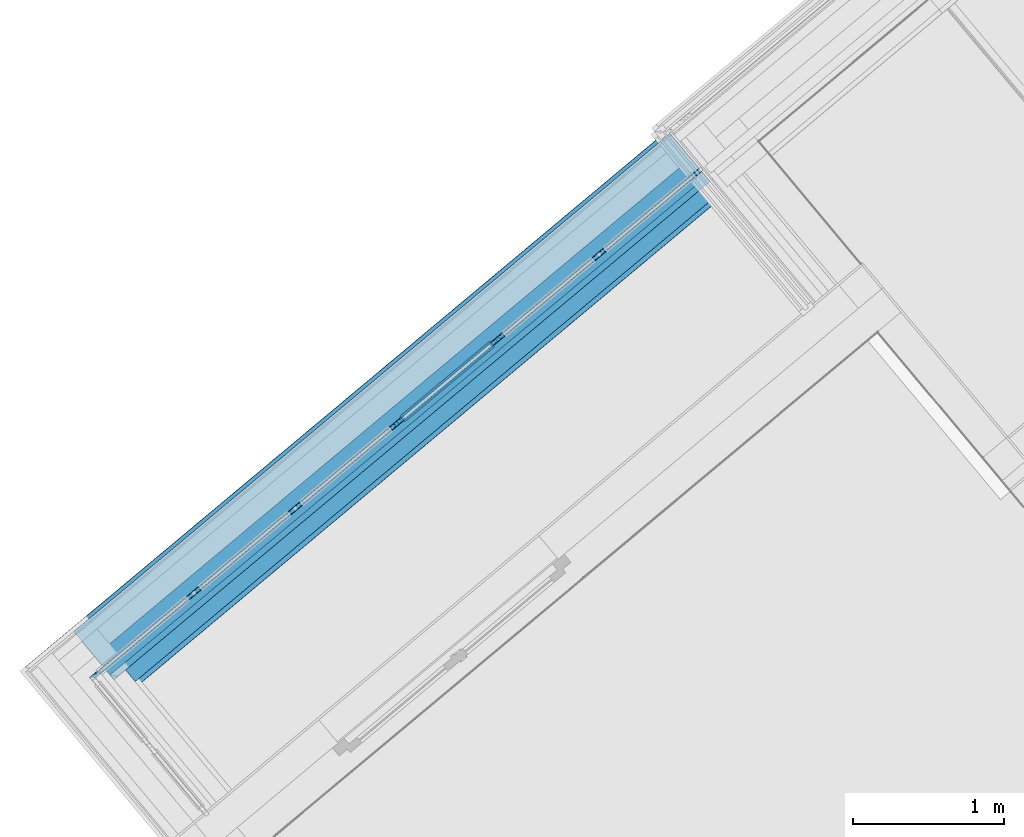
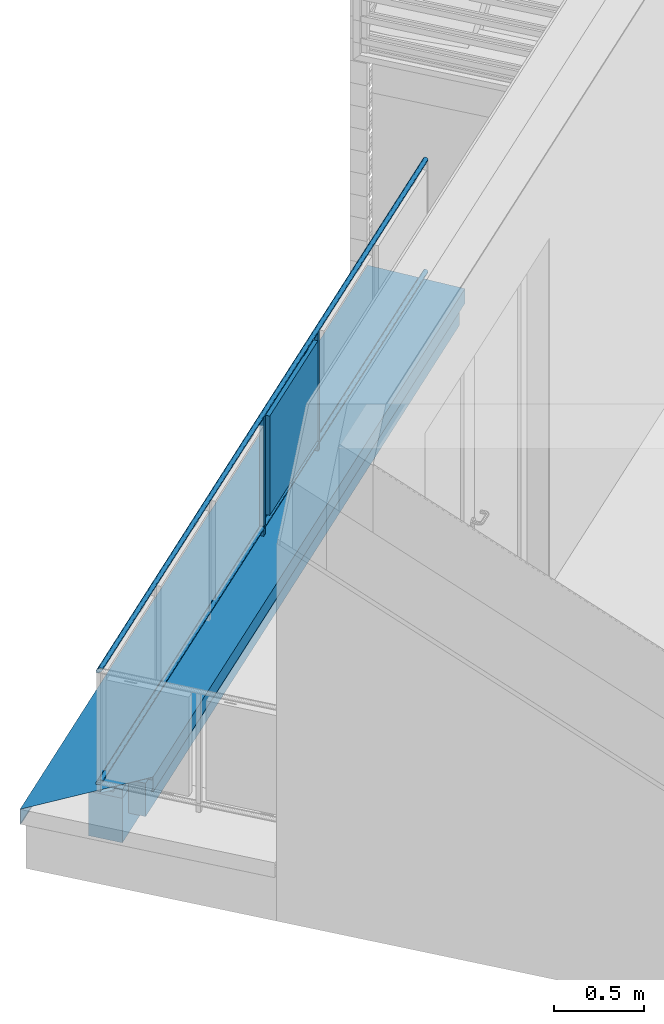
# One storey, part 19 of 50: 11 building element parts, 2 elements without a shape of their own.
"""IFC4 building model written with IfcOpenShell, lengths in metres."""

from ifc_helpers import new_model, entity, si_unit, converted_unit, derived_unit, direction, frame, origin_with_axes, place, context, subcontext, project, spatial, polygons, material, type_object, element, aggregate, save


model = new_model("IFC4")

# Units and contexts
model_context = context("Model", 3, precision=1e-05, world=origin_with_axes(), true_north=direction((0.0, 1.0)))
body_context = subcontext(model_context, "Body", "Model", "MODEL_VIEW")
ifc_project = project(units=[si_unit("LENGTHUNIT", "METRE"), si_unit("AREAUNIT", "SQUARE_METRE"), si_unit("VOLUMEUNIT", "CUBIC_METRE"), converted_unit("PLANEANGLEUNIT", "DEGREE", entity("IfcPlaneAngleMeasure", 0.0174532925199), si_unit("PLANEANGLEUNIT", "RADIAN"), dimensions=[0, 0, 0, 0, 0, 0, 0]), converted_unit("TIMEUNIT", "Year", entity("IfcTimeMeasure", 31556926.0), si_unit("TIMEUNIT", "SECOND"), dimensions=[0, 0, 1, 0, 0, 0, 0]), si_unit("MASSUNIT", "GRAM", prefix="KILO"), si_unit("THERMODYNAMICTEMPERATUREUNIT", "DEGREE_CELSIUS"), si_unit("LUMINOUSINTENSITYUNIT", "LUMEN"), si_unit("ENERGYUNIT", "JOULE", prefix="MEGA"), derived_unit("THERMALCONDUCTANCEUNIT", [(si_unit("POWERUNIT", "WATT"), 1), (si_unit("LENGTHUNIT", "METRE"), -1), (si_unit("THERMODYNAMICTEMPERATUREUNIT", "KELVIN"), -1)]), derived_unit("SPECIFICHEATCAPACITYUNIT", [(si_unit("ENERGYUNIT", "JOULE"), 1), (si_unit("MASSUNIT", "GRAM", prefix="KILO"), -1), (si_unit("THERMODYNAMICTEMPERATUREUNIT", "KELVIN"), -1)]), derived_unit("MASSDENSITYUNIT", [(si_unit("MASSUNIT", "GRAM", prefix="KILO"), 1), (si_unit("VOLUMEUNIT", "CUBIC_METRE"), -1)])], contexts=[model_context])

# Site, building, storey
site_placement = place(None, frame((-0.00153261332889, -0.00661245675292, 0.0), z_axis=(0.0, 0.0, 1.0), x_axis=(1.0, 0.0, 0.0)))
site = spatial("IfcSite", under=ifc_project, at=site_placement, Name="Gelände", CompositionType="ELEMENT")
building_placement = place(site_placement, origin_with_axes())
building = spatial("IfcBuilding", under=site, at=building_placement, Name="Gebäude", CompositionType="ELEMENT")
storey_placement = place(building_placement, frame((0.0, 0.0, 8.66), z_axis=(0.0, 0.0, 1.0), x_axis=(1.0, 0.0, 0.0)))
storey = spatial("IfcBuildingStorey", under=building, at=storey_placement, Name="DG2", CompositionType="ELEMENT", Elevation=8.66)

# Wall, building element parts
wall_type = type_object("IfcWallType", Name="Bauteil - Attika Terrasse 1.DG 574 x 410", PredefinedType="NOTDEFINED")
wall_placement = place(storey_placement, frame((-8.38023068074, 18.991205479, -0.2), z_axis=(0.0, 0.0, 1.0), x_axis=(0.767365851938, 0.641209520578, 0.0)))
wall = element("IfcWall", 1, at=wall_placement, inside=storey, type_object=wall_type, Name="Wand-005", PredefinedType="NOTDEFINED")
ifc_material_1 = material(Name="Brettschichtholz")
building_element_part_1_placement = place(wall_placement, origin_with_axes())
building_element_part_1 = element("IfcBuildingElementPart", 2, at=building_element_part_1_placement, material=ifc_material_1, Name="Brettschichtholz", PredefinedType="NOTDEFINED", context=body_context, shape_type="Tessellation", body=[
    polygons([(0.200000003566, -0.159999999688, 0.559999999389), (0.200000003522, -0.200000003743, 0.559999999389), (5.34520574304, -0.200000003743, 0.559999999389), (5.34520574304, -0.159999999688, 0.559999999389), (0.200000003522, -0.200000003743, 0.519224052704), (0.200000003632, -0.100000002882, 0.559999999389), (0.200000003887, 0.130124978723, 0.559999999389), (0.200000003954, 0.190124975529, 0.559999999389), (0.200000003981, 0.214999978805, 0.559999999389), (0.200000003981, 0.214999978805, 0.519224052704), (0.200000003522, -0.200000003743, 0.511361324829), (0.200000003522, -0.200000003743, 0.50905023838), (0.200000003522, -0.200000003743, 0.500000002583), (5.34520574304, -0.200000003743, 0.500000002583), (5.34520574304, 0.214999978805, 0.499999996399), (5.34520574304, 0.214999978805, 0.559999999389), (5.34520574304, 0.190124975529, 0.559999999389), (5.34520574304, 0.130124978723, 0.559999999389), (5.34520574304, -0.100000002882, 0.559999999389), (0.200000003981, 0.214999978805, 0.500000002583), (0.200000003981, 0.214999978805, 0.50905023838), (0.200000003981, 0.214999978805, 0.511361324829)], [[[1, 2, 3, 4]], [[5, 2, 1, 6, 7, 8, 9, 10]], [[2, 5, 11, 12, 13, 14, 3]], [[14, 15, 16, 17, 18, 19, 4, 3]], [[6, 1, 4, 19]], [[7, 6, 19, 18]], [[8, 7, 18, 17]], [[9, 8, 17, 16]], [[10, 9, 16, 15, 20, 21, 22]], [[5, 10, 22, 11]], [[11, 22, 21, 12]], [[12, 21, 20, 13]], [[13, 20, 15, 14]]], closed=True),
])
ifc_material_2 = material(Name="Stahlbeton")
building_element_part_2_placement = place(wall_placement, origin_with_axes())
building_element_part_2 = element("IfcBuildingElementPart", 3, at=building_element_part_2_placement, material=ifc_material_2, Name="Stahlbeton", PredefinedType="NOTDEFINED", context=body_context, shape_type="Tessellation", body=[
    polygons([(0.199999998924, -1.8283543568e-09, 0.500000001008), (0.199999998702, -0.199999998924, 0.500000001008), (5.34520574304, -0.199999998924, 0.500000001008), (5.34520574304, -1.8283543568e-09, 0.500000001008), (0.199999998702, -0.199999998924, 0.498822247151), (0.199999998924, -1.8283543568e-09, 0.498822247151), (0.199999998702, -0.199999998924, 0.49100648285), (0.199999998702, -0.199999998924, 0.488695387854), (0.199999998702, -0.199999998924, 0.335), (5.34520574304, -0.199999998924, 0.335000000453), (5.34520574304, -0.199999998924, 0.2), (5.34520574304, -1.8283543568e-09, 0.2), (0.199999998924, -1.8283543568e-09, 0.2), (0.199999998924, -1.8283543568e-09, 0.335), (0.199999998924, -1.8283543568e-09, 0.488695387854), (0.199999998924, -1.8283543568e-09, 0.49100648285), (0.199999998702, -0.199999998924, 0.2)], [[[1, 2, 3, 4]], [[5, 2, 1, 6]], [[2, 5, 7, 8, 9, 10, 3]], [[11, 12, 4, 3, 10]], [[6, 1, 4, 12, 13, 14, 15, 16]], [[5, 6, 16, 7]], [[7, 16, 15, 8]], [[8, 15, 14, 9]], [[9, 17, 11, 10]], [[17, 13, 12, 11]], [[9, 14, 13, 17]]], closed=True),
])
ifc_material_3 = material(Name="Vollholz")
building_element_part_3_placement = place(wall_placement, origin_with_axes())
building_element_part_3 = element("IfcBuildingElementPart", 4, at=building_element_part_3_placement, material=ifc_material_3, Name="Vollholz", PredefinedType="NOTDEFINED", context=body_context, shape_type="Tessellation", body=[
    polygons([(0.0999999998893, -0.1, 0.575979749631), (0.16011022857, -0.160110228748, 0.573880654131), (5.34520574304, -0.160110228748, 0.573880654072), (5.34520574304, -0.1, 0.575979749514), (0.160110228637, -0.1, 0.573880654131), (0.160063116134, -0.160063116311, 0.567947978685), (0.159999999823, -0.16, 0.560000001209), (5.34520574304, -0.16, 0.560000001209), (5.34520574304, -0.1, 0.560000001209), (0.159999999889, -0.1, 0.560000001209), (0.1600631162, -0.1, 0.567947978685)], [[[1, 2, 3, 4]], [[5, 2, 1]], [[2, 6, 7, 8, 3]], [[3, 8, 9, 4]], [[5, 1, 4, 9, 10, 11]], [[2, 5, 11, 6]], [[6, 11, 10, 7]], [[7, 10, 9, 8]]], closed=True),
])
ifc_material_4 = material(Name="EPS 1")
building_element_part_4_placement = place(wall_placement, origin_with_axes())
building_element_part_4 = element("IfcBuildingElementPart", 5, at=building_element_part_4_placement, material=ifc_material_4, Name="EPS 1", PredefinedType="NOTDEFINED", context=body_context, shape_type="Tessellation", body=[
    polygons([(0.299999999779, -0.2, 0.560000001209), (0.299999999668, -0.3, 0.560000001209), (5.34520574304, -0.3, 0.560000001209), (5.34520574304, -0.2, 0.560000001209), (0.299999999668, -0.3, 0.519224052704), (0.299999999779, -0.2, 0.519224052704), (0.299999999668, -0.3, 0.511361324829), (0.299999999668, -0.3, 0.50905023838), (0.299999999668, -0.3, 0.499999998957), (0.299999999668, -0.3, 0.498822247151), (0.299999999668, -0.3, 0.49100648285), (0.299999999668, -0.3, 0.488695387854), (0.299999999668, -0.3, 0.335), (5.34520574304, -0.3, 0.335), (5.34520574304, -0.2, 0.335), (0.299999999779, -0.2, 0.335), (0.299999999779, -0.2, 0.488695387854), (0.299999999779, -0.2, 0.49100648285), (0.299999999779, -0.2, 0.498822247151), (0.299999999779, -0.2, 0.499999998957), (0.299999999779, -0.2, 0.50905023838), (0.299999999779, -0.2, 0.511361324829)], [[[1, 2, 3, 4]], [[5, 2, 1, 6]], [[2, 5, 7, 8, 9, 10, 11, 12, 13, 14, 3]], [[14, 15, 4, 3]], [[6, 1, 4, 15, 16, 17, 18, 19, 20, 21, 22]], [[5, 6, 22, 7]], [[7, 22, 21, 8]], [[8, 21, 20, 9]], [[9, 20, 19, 10]], [[10, 19, 18, 11]], [[11, 18, 17, 12]], [[12, 17, 16, 13]], [[13, 16, 15, 14]]], closed=True),
])
ifc_material_5 = material(Name="Holzwerkstoff")
building_element_part_5_placement = place(wall_placement, origin_with_axes())
building_element_part_5 = element("IfcBuildingElementPart", 6, at=building_element_part_5_placement, material=ifc_material_5, Name="Holzwerkstoff", PredefinedType="NOTDEFINED", context=body_context, shape_type="Tessellation", body=[
    polygons([(-0.239276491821, 0.239276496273, 0.608570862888), (0.330698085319, -0.330698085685, 0.587938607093), (5.34520574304, -0.330698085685, 0.587938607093), (5.34520574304, 0.239276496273, 0.608570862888), (0.330698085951, 0.2399969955, 0.587938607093), (0.330561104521, -0.330561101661, 0.584015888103), (0.330280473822, -0.330280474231, 0.57597974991), (0.330207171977, -0.330207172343, 0.573880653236), (0.329999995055, -0.329999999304, 0.567947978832), (5.34520574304, -0.329999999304, 0.567947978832), (0.330634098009, -0.330634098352, 0.586106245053), (5.34520574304, -0.100000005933, 0.575979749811), (5.34520574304, 0.130124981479, 0.584015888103), (5.34520574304, 0.189984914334, 0.586106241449), (5.34520574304, 0.239999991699, 0.587852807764), (5.34520574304, -0.160110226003, 0.573880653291), (0.330695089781, 0.239999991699, 0.587852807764), (0.33063409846, 0.189984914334, 0.586106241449), (0.330280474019, -0.100000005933, 0.575979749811), (0.330561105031, 0.130124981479, 0.584015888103), (0.330207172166, -0.160110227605, 0.573880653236)], [[[1, 2, 3, 4]], [[1, 5, 2]], [[6, 7, 8, 9, 10, 3, 2, 11]], [[12, 13, 14, 15, 4, 3, 10, 16]], [[17, 5, 1, 4, 15]], [[18, 11, 2, 5, 17]], [[19, 7, 6, 20]], [[21, 8, 7, 19]], [[21, 9, 8]], [[9, 21, 16, 10]], [[20, 6, 11, 18]], [[19, 20, 13, 12]], [[20, 18, 14, 13]], [[18, 17, 15, 14]], [[21, 19, 12, 16]]], closed=True),
])
ifc_material_6 = material(Name="Stahl")
building_element_part_6_placement = place(wall_placement, origin_with_axes())
building_element_part_6 = element("IfcBuildingElementPart", 7, at=building_element_part_6_placement, material=ifc_material_6, Name="Stahl", PredefinedType="NOTDEFINED", context=body_context, shape_type="Tessellation", body=[
    polygons([(-0.240542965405, 0.240542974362, 0.50905023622), (-0.238231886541, 0.238231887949, 0.51136132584), (-0.238231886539, 0.240146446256, 0.511361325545), (-0.238231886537, 0.241500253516, 0.511361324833), (-0.239585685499, 0.241500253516, 0.510007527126), (5.34520574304, 0.240542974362, 0.509050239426), (5.34520574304, 0.231373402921, 0.518219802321), (-0.231373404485, 0.231373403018, 0.518219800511), (-0.231373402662, 0.233287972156, 0.518219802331), (-0.240146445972, 0.240146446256, 0.51136132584), (-0.24014644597, 0.241500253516, 0.511361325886), (-0.240151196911, 0.241500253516, 0.584015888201), (-0.240151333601, 0.241500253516, 0.586106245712), (-0.240151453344, 0.241500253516, 0.587937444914), (-0.240152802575, 0.241500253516, 0.608570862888), (-0.240152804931, 0.241500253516, 0.608602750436), (-0.202730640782, 0.241500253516, 0.608602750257), (-0.241500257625, 0.241500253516, 0.610006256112), (5.34520574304, 0.241500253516, 0.610006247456), (5.34520574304, 0.241500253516, 0.510007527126), (-0.240146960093, 0.241500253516, 0.519224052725), (-0.240149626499, 0.241500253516, 0.559999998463), (-0.240150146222, 0.241500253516, 0.567947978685), (-0.240150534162, 0.241500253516, 0.573880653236), (-0.240150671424, 0.241500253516, 0.575979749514), (5.34520574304, -0.332051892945, 0.489652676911), (5.34520574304, -0.331094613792, 0.488695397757), (5.34520574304, -0.321878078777, 0.497911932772), (5.34520574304, -0.32288233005, 0.498822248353), (5.34520574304, -0.330698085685, 0.491006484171), (5.34520574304, -0.330698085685, 0.587937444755), (5.34520574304, 0.239276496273, 0.608570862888), (5.34520574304, 0.240152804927, 0.608602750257), (5.34520574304, 0.240146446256, 0.51136132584), (5.34520574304, 0.232283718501, 0.519224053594), (5.34520574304, -0.332051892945, 0.589243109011), (-0.232283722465, 0.232283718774, 0.519224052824), (-0.240146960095, 0.240146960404, 0.519224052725), (-0.240150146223, 0.240150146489, 0.567947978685), (-0.2401496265, 0.240149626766, 0.559999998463), (-0.202730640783, 0.240152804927, 0.608602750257), (-0.240152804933, 0.240152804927, 0.608602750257), (-0.240152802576, 0.240152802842, 0.608570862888), (-0.240151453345, 0.240151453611, 0.587937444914), (-0.240151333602, 0.240151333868, 0.586106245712), (-0.240151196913, 0.240151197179, 0.584015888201), (-0.240150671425, 0.240150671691, 0.575979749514), (-0.240150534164, 0.24015053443, 0.573880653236), (-0.202730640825, 0.202730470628, 0.608602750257), (-0.201849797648, 0.201849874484, 0.608570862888), (0.332051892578, -0.332051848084, 0.589243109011), (0.332051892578, -0.332051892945, 0.489652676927), (0.331094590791, -0.331094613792, 0.488695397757), (0.33205189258, -0.330137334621, 0.489652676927), (0.332051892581, -0.328783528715, 0.491006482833), (0.330698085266, -0.328783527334, 0.491006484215), (0.323792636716, -0.321878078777, 0.497911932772), (0.322882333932, -0.32288233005, 0.498822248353), (0.330698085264, -0.330698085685, 0.491006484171), (0.332051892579, -0.330698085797, 0.49100648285), (0.332051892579, -0.330698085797, 0.498822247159), (0.332051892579, -0.330698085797, 0.499999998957), (0.332051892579, -0.330698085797, 0.50905024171), (0.332051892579, -0.330698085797, 0.511361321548), (0.332051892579, -0.330698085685, 0.519224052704), (0.332051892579, -0.330698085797, 0.559999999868), (0.332051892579, -0.330698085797, 0.567947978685), (0.332051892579, -0.330698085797, 0.573880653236), (0.332051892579, -0.330698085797, 0.575979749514), (0.332051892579, -0.330698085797, 0.584015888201), (0.332051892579, -0.330698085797, 0.586106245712), (0.33205189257, -0.330697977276, 0.587937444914), (0.332051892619, -0.294630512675, 0.589243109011), (-0.201849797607, 0.239276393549, 0.608570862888), (0.332051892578, -0.332051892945, 0.498822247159), (0.332051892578, -0.332051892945, 0.49100648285), (0.332051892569, -0.332051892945, 0.587937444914), (0.332051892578, -0.332051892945, 0.586106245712), (0.332051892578, -0.332051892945, 0.584015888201), (0.332051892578, -0.332051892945, 0.575979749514), (0.332051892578, -0.332051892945, 0.573880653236), (0.332051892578, -0.332051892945, 0.567947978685), (0.332051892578, -0.332051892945, 0.559999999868), (0.332051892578, -0.332051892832, 0.519224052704), (0.332051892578, -0.332051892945, 0.511361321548), (0.332051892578, -0.332051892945, 0.50905024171), (0.332051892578, -0.332051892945, 0.499999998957)], [[[1, 2, 3, 4, 5]], [[2, 1, 6, 7, 8]], [[2, 8, 9, 3]], [[10, 11, 4, 3]], [[12, 13, 14, 15, 16, 17, 18, 19, 20, 5, 4, 11, 21, 22, 23, 24, 25]], [[1, 5, 20, 6]], [[26, 27, 28, 29, 30, 31, 32, 33, 34, 35, 7, 6, 20, 19, 36]], [[37, 8, 7, 35]], [[37, 9, 8]], [[9, 37, 35, 34, 3]], [[10, 38, 21, 11]], [[39, 40, 38, 10, 3, 34, 33, 41, 42, 43, 44, 45, 46, 47, 48]], [[12, 46, 45, 13]], [[44, 14, 13, 45]], [[14, 44, 43, 15]], [[15, 43, 42, 16]], [[16, 42, 41, 17]], [[41, 49, 18, 17]], [[50, 51, 36, 19, 18, 49]], [[38, 40, 22, 21]], [[40, 39, 23, 22]], [[39, 48, 24, 23]], [[48, 47, 25, 24]], [[46, 12, 25, 47]], [[52, 53, 27, 26]], [[54, 55, 56, 57, 28, 27, 53]], [[57, 58, 29, 28]], [[59, 60, 30, 29, 58]], [[60, 61, 62, 63, 64, 65, 66, 67, 68, 69, 70, 71, 72, 31, 30]], [[73, 74, 32, 31, 72]], [[74, 41, 33, 32]], [[75, 76, 52, 26, 36, 51, 77, 78, 79, 80, 81, 82, 83, 84, 85, 86, 87]], [[49, 41, 74, 50]], [[74, 73, 51, 50]], [[53, 52, 54]], [[76, 60, 55, 54, 52]], [[60, 59, 56, 55]], [[58, 57, 56, 59]], [[60, 76, 75, 61]], [[61, 75, 87, 62]], [[87, 86, 63, 62]], [[86, 85, 64, 63]], [[85, 84, 65, 64]], [[84, 83, 66, 65]], [[83, 82, 67, 66]], [[82, 81, 68, 67]], [[81, 80, 69, 68]], [[80, 79, 70, 69]], [[79, 78, 71, 70]], [[78, 77, 72, 71]], [[77, 51, 73, 72]]], closed=True),
])
aggregate(wall, [building_element_part_1, building_element_part_2, building_element_part_3, building_element_part_4, building_element_part_5, building_element_part_6])

# Space
space_placement = place(storey_placement, frame((-4.06558748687, 22.1637970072, 0.22), z_axis=(0.0, 0.0, 1.0), x_axis=(-0.767365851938, -0.641209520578, 0.0)))
space = spatial("IfcSpace", under=storey, at=space_placement, CompositionType="ELEMENT", PredefinedType="NOTDEFINED")

# Railing, building element parts
railing_type = type_object("IfcRailingType", Name="Geländerart", PredefinedType="NOTDEFINED")
railing_placement = place(space_placement, frame((5.14520574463, 0.942485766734, 0.16), z_axis=(0.0, 0.0, 1.0), x_axis=(-0.767365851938, 0.641209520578, 0.0)))
railing = element("IfcRailing", 8, at=railing_placement, inside=space, type_object=railing_type, Name="Geländer - 001", PredefinedType="NOTDEFINED")
ifc_material_7 = material(Name="Aluminium")
building_element_part_7_placement = place(railing_placement, origin_with_axes())
building_element_part_7 = element("IfcBuildingElementPart", 9, at=building_element_part_7_placement, material=ifc_material_7, Name="Aluminium", PredefinedType="NOTDEFINED", context=body_context, shape_type="Tessellation", body=[
    polygons([(-0.850989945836, 0.83907148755, 0.825), (-0.850668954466, 0.839042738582, 0.827604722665), (3.18565834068, 4.2117907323, 0.827604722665), (3.18551221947, 4.21196560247, 0.825), (-0.850668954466, 0.839042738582, 0.822395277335), (-0.849715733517, 0.838957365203, 0.81986969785), (-0.848159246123, 0.838817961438, 0.8175), (-0.846046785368, 0.838628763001, 0.815358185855), (-0.843442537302, 0.838395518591, 0.813509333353), (-0.840425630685, 0.83812531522, 0.812009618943), (-0.837087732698, 0.837826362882, 0.810904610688), (-0.833530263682, 0.837507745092, 0.810227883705), (-0.829861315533, 0.837179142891, 0.81), (-0.826192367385, 0.836850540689, 0.810227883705), (-0.822634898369, 0.836531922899, 0.810904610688), (-0.819297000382, 0.836232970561, 0.812009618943), (-0.816280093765, 0.835962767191, 0.813509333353), (-0.813675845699, 0.83572952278, 0.815358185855), (-0.811563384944, 0.835540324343, 0.8175), (-0.81000689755, 0.835400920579, 0.81986969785), (-0.8090536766, 0.835315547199, 0.822395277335), (-0.80873268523, 0.835286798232, 0.825), (-0.8090536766, 0.835315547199, 0.827604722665), (-0.81000689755, 0.835400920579, 0.83013030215), (-0.811563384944, 0.835540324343, 0.8325), (-0.813675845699, 0.83572952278, 0.834641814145), (-0.816280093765, 0.835962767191, 0.836490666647), (-0.819297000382, 0.836232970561, 0.837990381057), (-0.822634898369, 0.836531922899, 0.839095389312), (-0.826192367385, 0.836850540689, 0.839772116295), (-0.829861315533, 0.837179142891, 0.84), (-0.833530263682, 0.837507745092, 0.839772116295), (-0.837087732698, 0.837826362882, 0.839095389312), (-0.840425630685, 0.83812531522, 0.837990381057), (-0.843442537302, 0.838395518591, 0.836490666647), (-0.846046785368, 0.838628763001, 0.834641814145), (-0.848159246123, 0.838817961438, 0.8325), (-0.849715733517, 0.838957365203, 0.83013030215), (3.18609226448, 4.21127143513, 0.83013030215), (3.18680080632, 4.21042348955, 0.8325), (3.18776243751, 4.20927265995, 0.834641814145), (3.18894793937, 4.20785391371, 0.836490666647), (3.19032129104, 4.20621035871, 0.837990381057), (3.19184076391, 4.20439193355, 0.839095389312), (3.19346018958, 4.20245389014, 0.839772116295), (3.1951303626, 4.20045511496, 0.84), (3.19680053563, 4.19845633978, 0.839772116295), (3.1984199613, 4.19651829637, 0.839095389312), (3.19993943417, 4.1946998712, 0.837990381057), (3.20131278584, 4.19305631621, 0.836490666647), (3.2024982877, 4.19163756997, 0.834641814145), (3.20345991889, 4.19048674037, 0.8325), (3.20416846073, 4.18963879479, 0.83013030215), (3.20460238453, 4.18911949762, 0.827604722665), (3.20474850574, 4.18894462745, 0.825), (3.20460238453, 4.18911949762, 0.822395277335), (3.20416846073, 4.18963879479, 0.81986969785), (3.20345991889, 4.19048674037, 0.8175), (3.2024982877, 4.19163756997, 0.815358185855), (3.20131278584, 4.19305631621, 0.813509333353), (3.19993943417, 4.1946998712, 0.812009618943), (3.1984199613, 4.19651829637, 0.810904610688), (3.19680053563, 4.19845633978, 0.810227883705), (3.1951303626, 4.20045511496, 0.81), (3.19346018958, 4.20245389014, 0.810227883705), (3.19184076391, 4.20439193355, 0.810904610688), (3.19032129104, 4.20621035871, 0.812009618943), (3.18894793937, 4.20785391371, 0.813509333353), (3.18776243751, 4.20927265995, 0.815358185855), (3.18680080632, 4.21042348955, 0.8175), (3.18609226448, 4.21127143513, 0.81986969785), (3.18565834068, 4.2117907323, 0.822395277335)], [[[1, 2, 3, 4]], [[1, 5, 6, 7, 8, 9, 10, 11, 12, 13, 14, 15, 16, 17, 18, 19, 20, 21, 22, 23, 24, 25, 26, 27, 28, 29, 30, 31, 32, 33, 34, 35, 36, 37, 38, 2]], [[2, 38, 39, 3]], [[4, 3, 39, 40, 41, 42, 43, 44, 45, 46, 47, 48, 49, 50, 51, 52, 53, 54, 55, 56, 57, 58, 59, 60, 61, 62, 63, 64, 65, 66, 67, 68, 69, 70, 71, 72]], [[5, 1, 4, 72]], [[6, 5, 72, 71]], [[7, 6, 71, 70]], [[8, 7, 70, 69]], [[9, 8, 69, 68]], [[10, 9, 68, 67]], [[11, 10, 67, 66]], [[12, 11, 66, 65]], [[13, 12, 65, 64]], [[14, 13, 64, 63]], [[15, 14, 63, 62]], [[16, 15, 62, 61]], [[17, 16, 61, 60]], [[18, 17, 60, 59]], [[19, 18, 59, 58]], [[20, 19, 58, 57]], [[21, 20, 57, 56]], [[22, 21, 56, 55]], [[23, 22, 55, 54]], [[24, 23, 54, 53]], [[25, 24, 53, 52]], [[26, 25, 52, 51]], [[27, 26, 51, 50]], [[28, 27, 50, 49]], [[29, 28, 49, 48]], [[30, 29, 48, 47]], [[31, 30, 47, 46]], [[32, 31, 46, 45]], [[33, 32, 45, 44]], [[34, 33, 44, 43]], [[35, 34, 43, 42]], [[36, 35, 42, 41]], [[37, 36, 41, 40]], [[38, 37, 40, 39]]], closed=True),
])
building_element_part_8_placement = place(railing_placement, origin_with_axes())
building_element_part_8 = element("IfcBuildingElementPart", 10, at=building_element_part_8_placement, material=ifc_material_7, Name="Aluminium", PredefinedType="NOTDEFINED", context=body_context, shape_type="Tessellation", body=[
    polygons([(-0.850989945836, 0.83907148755, 0.07), (-0.850668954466, 0.839042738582, 0.072604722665), (3.18565834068, 4.2117907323, 0.072604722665), (3.18551221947, 4.21196560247, 0.07), (-0.850668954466, 0.839042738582, 0.067395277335), (-0.849715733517, 0.838957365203, 0.0648696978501), (-0.848159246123, 0.838817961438, 0.0625), (-0.846046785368, 0.838628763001, 0.0603581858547), (-0.843442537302, 0.838395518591, 0.0585093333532), (-0.840425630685, 0.83812531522, 0.0570096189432), (-0.837087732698, 0.837826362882, 0.0559046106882), (-0.833530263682, 0.837507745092, 0.0552278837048), (-0.829861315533, 0.837179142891, 0.055), (-0.826192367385, 0.836850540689, 0.0552278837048), (-0.822634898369, 0.836531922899, 0.0559046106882), (-0.819297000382, 0.836232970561, 0.0570096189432), (-0.816280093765, 0.835962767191, 0.0585093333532), (-0.813675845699, 0.83572952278, 0.0603581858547), (-0.811563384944, 0.835540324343, 0.0625), (-0.81000689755, 0.835400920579, 0.0648696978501), (-0.8090536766, 0.835315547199, 0.067395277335), (-0.80873268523, 0.835286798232, 0.07), (-0.8090536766, 0.835315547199, 0.072604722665), (-0.81000689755, 0.835400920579, 0.0751303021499), (-0.811563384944, 0.835540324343, 0.0775), (-0.813675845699, 0.83572952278, 0.0796418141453), (-0.816280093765, 0.835962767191, 0.0814906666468), (-0.819297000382, 0.836232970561, 0.0829903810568), (-0.822634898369, 0.836531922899, 0.0840953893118), (-0.826192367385, 0.836850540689, 0.0847721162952), (-0.829861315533, 0.837179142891, 0.085), (-0.833530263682, 0.837507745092, 0.0847721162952), (-0.837087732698, 0.837826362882, 0.0840953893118), (-0.840425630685, 0.83812531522, 0.0829903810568), (-0.843442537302, 0.838395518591, 0.0814906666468), (-0.846046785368, 0.838628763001, 0.0796418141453), (-0.848159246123, 0.838817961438, 0.0775), (-0.849715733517, 0.838957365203, 0.0751303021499), (3.18609226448, 4.21127143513, 0.0751303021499), (3.18680080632, 4.21042348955, 0.0775), (3.18776243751, 4.20927265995, 0.0796418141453), (3.18894793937, 4.20785391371, 0.0814906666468), (3.19032129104, 4.20621035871, 0.0829903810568), (3.19184076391, 4.20439193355, 0.0840953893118), (3.19346018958, 4.20245389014, 0.0847721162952), (3.1951303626, 4.20045511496, 0.085), (3.19680053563, 4.19845633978, 0.0847721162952), (3.1984199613, 4.19651829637, 0.0840953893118), (3.19993943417, 4.1946998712, 0.0829903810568), (3.20131278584, 4.19305631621, 0.0814906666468), (3.2024982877, 4.19163756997, 0.0796418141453), (3.20345991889, 4.19048674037, 0.0775), (3.20416846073, 4.18963879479, 0.0751303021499), (3.20460238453, 4.18911949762, 0.072604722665), (3.20474850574, 4.18894462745, 0.07), (3.20460238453, 4.18911949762, 0.067395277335), (3.20416846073, 4.18963879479, 0.0648696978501), (3.20345991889, 4.19048674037, 0.0625), (3.2024982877, 4.19163756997, 0.0603581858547), (3.20131278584, 4.19305631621, 0.0585093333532), (3.19993943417, 4.1946998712, 0.0570096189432), (3.1984199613, 4.19651829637, 0.0559046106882), (3.19680053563, 4.19845633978, 0.0552278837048), (3.1951303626, 4.20045511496, 0.055), (3.19346018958, 4.20245389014, 0.0552278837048), (3.19184076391, 4.20439193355, 0.0559046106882), (3.19032129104, 4.20621035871, 0.0570096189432), (3.18894793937, 4.20785391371, 0.0585093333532), (3.18776243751, 4.20927265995, 0.0603581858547), (3.18680080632, 4.21042348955, 0.0625), (3.18609226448, 4.21127143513, 0.0648696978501), (3.18565834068, 4.2117907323, 0.067395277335)], [[[1, 2, 3, 4]], [[1, 5, 6, 7, 8, 9, 10, 11, 12, 13, 14, 15, 16, 17, 18, 19, 20, 21, 22, 23, 24, 25, 26, 27, 28, 29, 30, 31, 32, 33, 34, 35, 36, 37, 38, 2]], [[2, 38, 39, 3]], [[4, 3, 39, 40, 41, 42, 43, 44, 45, 46, 47, 48, 49, 50, 51, 52, 53, 54, 55, 56, 57, 58, 59, 60, 61, 62, 63, 64, 65, 66, 67, 68, 69, 70, 71, 72]], [[5, 1, 4, 72]], [[6, 5, 72, 71]], [[7, 6, 71, 70]], [[8, 7, 70, 69]], [[9, 8, 69, 68]], [[10, 9, 68, 67]], [[11, 10, 67, 66]], [[12, 11, 66, 65]], [[13, 12, 65, 64]], [[14, 13, 64, 63]], [[15, 14, 63, 62]], [[16, 15, 62, 61]], [[17, 16, 61, 60]], [[18, 17, 60, 59]], [[19, 18, 59, 58]], [[20, 19, 58, 57]], [[21, 20, 57, 56]], [[22, 21, 56, 55]], [[23, 22, 55, 54]], [[24, 23, 54, 53]], [[25, 24, 53, 52]], [[26, 25, 52, 51]], [[27, 26, 51, 50]], [[28, 27, 50, 49]], [[29, 28, 49, 48]], [[30, 29, 48, 47]], [[31, 30, 47, 46]], [[32, 31, 46, 45]], [[33, 32, 45, 44]], [[34, 33, 44, 43]], [[35, 34, 43, 42]], [[36, 35, 42, 41]], [[37, 36, 41, 40]], [[38, 37, 40, 39]]], closed=True),
])
building_element_part_9_placement = place(railing_placement, origin_with_axes())
building_element_part_9 = element("IfcBuildingElementPart", 11, at=building_element_part_9_placement, material=ifc_material_7, Name="Aluminium", PredefinedType="NOTDEFINED", context=body_context, shape_type="Tessellation", body=[
    polygons([(1.20024171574, 2.51724017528, -0.3), (1.18421147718, 2.53642432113, -0.3), (1.18421147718, 2.53642432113, 0.82), (1.20024171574, 2.51724017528, 0.82), (1.18105756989, 2.50120993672, -0.3), (1.16502733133, 2.52039408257, -0.3), (1.16502733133, 2.52039408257, 0.82), (1.18105756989, 2.50120993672, 0.82)], [[[1, 2, 3, 4]], [[1, 5, 6, 2]], [[2, 6, 7, 3]], [[4, 3, 7, 8]], [[5, 1, 4, 8]], [[6, 5, 8, 7]]], closed=True),
])
building_element_part_10_placement = place(railing_placement, origin_with_axes())
building_element_part_10 = element("IfcBuildingElementPart", 12, at=building_element_part_10_placement, material=ifc_material_7, Name="Aluminium", PredefinedType="NOTDEFINED", context=body_context, shape_type="Tessellation", body=[
    polygons([(1.29613637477, 2.61691697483, 0.12), (1.34985198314, 2.66180164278, 0.12), (1.34985198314, 2.66180164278, 0.095), (1.29613637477, 2.61691697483, 0.095), (1.29934242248, 2.61308014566, 0.12), (1.35305803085, 2.65796481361, 0.12), (1.35305803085, 2.65796481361, 0.095), (1.29934242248, 2.61308014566, 0.095)], [[[1, 2, 3, 4]], [[5, 6, 2, 1]], [[2, 6, 7, 3]], [[4, 3, 7, 8]], [[1, 4, 8, 5]], [[8, 7, 6, 5]]], closed=True),
    polygons([(1.73675857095, 2.98510010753, 0.79), (1.68304296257, 2.94021543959, 0.79), (1.68304296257, 2.94021543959, 0.795), (1.73675857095, 2.98510010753, 0.795), (1.73996461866, 2.98126327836, 0.79), (1.68624901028, 2.93637861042, 0.79), (1.68624901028, 2.93637861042, 0.795), (1.73996461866, 2.98126327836, 0.795)], [[[1, 2, 3, 4]], [[5, 6, 2, 1]], [[2, 6, 7, 3]], [[4, 3, 7, 8]], [[1, 4, 8, 5]], [[8, 7, 6, 5]]], closed=True),
    polygons([(1.23703305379, 2.53169346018, 0.12), (1.20497257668, 2.57006175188, 0.12), (1.79906793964, 3.06648679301, 0.12), (1.83112841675, 3.02811850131, 0.12), (1.25238037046, 2.54451765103, 0.14), (1.24276222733, 2.55602813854, 0.14), (1.23892539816, 2.55282209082, 0.135), (1.22610120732, 2.5681694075, 0.135), (1.22993803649, 2.57137545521, 0.14), (1.22031989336, 2.58288594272, 0.14), (1.78372062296, 3.05366260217, 0.14), (1.78372062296, 3.05366260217, 0.77), (1.22031989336, 2.58288594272, 0.77), (1.22031989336, 2.58288594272, 0.14), (1.20497257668, 2.57006175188, 0.12), (1.20497257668, 2.57006175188, 0.79), (1.79906793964, 3.06648679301, 0.79), (1.83112841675, 3.02811850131, 0.79), (1.23703305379, 2.53169346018, 0.79), (1.23703305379, 2.53169346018, 0.12), (1.25238037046, 2.54451765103, 0.14), (1.25238037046, 2.54451765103, 0.77), (1.81578110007, 3.01529431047, 0.77), (1.81578110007, 3.01529431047, 0.14), (1.80616295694, 3.02680479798, 0.14), (1.80616295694, 3.02680479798, 0.77), (1.24276222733, 2.55602813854, 0.77), (1.24276222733, 2.55602813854, 0.14), (1.23892539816, 2.55282209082, 0.135), (1.23892539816, 2.55282209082, 0.775), (1.80999978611, 3.03001084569, 0.775), (1.80999978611, 3.03001084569, 0.135), (1.79717559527, 3.04535816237, 0.135), (1.79717559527, 3.04535816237, 0.775), (1.22610120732, 2.5681694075, 0.775), (1.22610120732, 2.5681694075, 0.135), (1.22993803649, 2.57137545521, 0.14), (1.22993803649, 2.57137545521, 0.77), (1.7933387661, 3.04215211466, 0.77), (1.7933387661, 3.04215211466, 0.14)], [[[1, 2, 3, 4]], [[1, 5, 6, 7, 8, 9, 10, 2]], [[2, 10, 11, 12, 13, 14, 15, 16, 17, 3]], [[4, 3, 17, 18]], [[5, 1, 4, 18, 19, 20, 21, 22, 23, 24]], [[6, 5, 24, 25]], [[7, 6, 25, 26, 27, 28, 29, 30, 31, 32]], [[8, 7, 32, 33]], [[9, 8, 33, 34, 35, 36, 37, 38, 39, 40]], [[10, 9, 40, 11]], [[11, 40, 39, 12]], [[12, 39, 38, 13]], [[13, 38, 37, 14]], [[20, 15, 14, 37, 36, 29, 28, 21]], [[19, 16, 15, 20]], [[18, 17, 16, 19]], [[27, 22, 21, 28]], [[26, 23, 22, 27]], [[25, 24, 23, 26]], [[35, 30, 29, 36]], [[34, 31, 30, 35]], [[33, 32, 31, 34]]], closed=True),
])
building_element_part_11_placement = place(railing_placement, origin_with_axes())
building_element_part_11 = element("IfcBuildingElementPart", 13, at=building_element_part_11_placement, material=ifc_material_7, Name="Aluminium", PredefinedType="NOTDEFINED", context=body_context, shape_type="Tessellation", body=[
    polygons([(1.87107366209, 3.07778617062, -0.3), (1.85504342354, 3.09697031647, -0.3), (1.85504342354, 3.09697031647, 0.82), (1.87107366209, 3.07778617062, 0.82), (1.85188951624, 3.06175593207, -0.3), (1.83585927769, 3.08094007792, -0.3), (1.83585927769, 3.08094007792, 0.82), (1.85188951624, 3.06175593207, 0.82)], [[[1, 2, 3, 4]], [[1, 5, 6, 2]], [[2, 6, 7, 3]], [[4, 3, 7, 8]], [[5, 1, 4, 8]], [[6, 5, 8, 7]]], closed=True),
])
aggregate(railing, [building_element_part_7, building_element_part_8, building_element_part_9, building_element_part_10, building_element_part_11])

save(model, "model.ifc")
